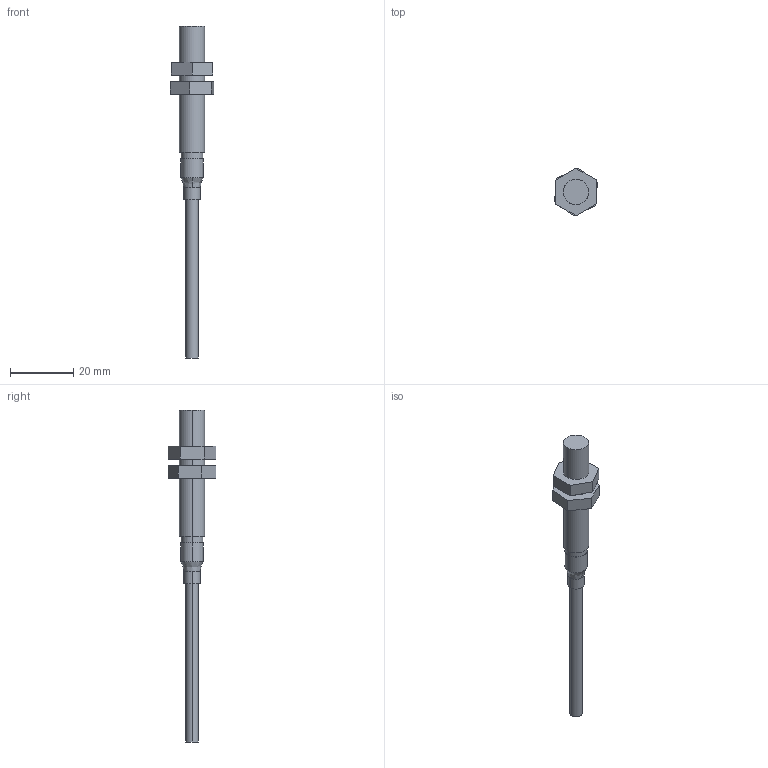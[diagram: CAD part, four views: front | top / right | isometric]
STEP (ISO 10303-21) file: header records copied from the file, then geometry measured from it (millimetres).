
FILE_DESCRIPTION (( 'STEP AP203' ), '1' );
FILE_NAME ('gx-208mk.STEP', '2024-07-17T06:16:01', ( '' ), ( '' ), 'SwSTEP 2.0', 'SolidWorks 2022', '' );
FILE_SCHEMA (( 'CONFIG_CONTROL_DESIGN' ));
Length unit declared in the file: millimetre
Products named in the file (4): M8-2; 208; M8-1; gx-208mk
Assembly tree (3 placements, depth 2):
  gx-208mk
    208
    M8-1
    M8-2
Bounding box: 13.63 x 15.01 x 105 mm (x, y, z)
Volume: 3846.4 mm3; surface area: 2949.5 mm2
Topology: 3 solids, 3 shells, 37 faces, 84 edges, 56 vertices
Faces by surface type: plane 21, cylinder 14, bspline 2
Entity records: 1486 total; most frequent: CARTESIAN_POINT 209, DIRECTION 196, ORIENTED_EDGE 168, EDGE_CURVE 84, AXIS2_PLACEMENT_3D 73, VERTEX_POINT 56, LINE 50, VECTOR 50
